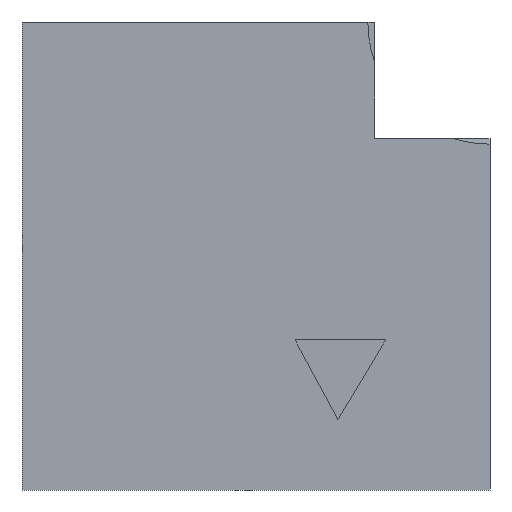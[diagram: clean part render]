
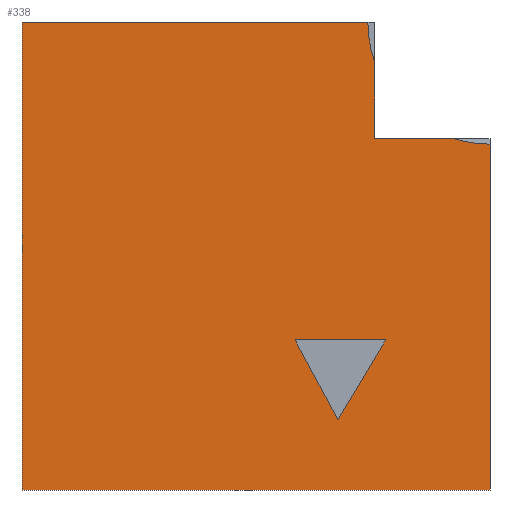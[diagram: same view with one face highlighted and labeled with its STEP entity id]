
A CAD part, front view. The second image highlights one B-rep face of the part: STEP entity #338.
In plain terms, the highlighted planar face has unit normal (0, -1, 0).
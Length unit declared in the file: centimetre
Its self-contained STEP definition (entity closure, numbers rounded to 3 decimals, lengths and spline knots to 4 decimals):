
#27 = ORIENTED_EDGE ( 'NONE', *, *, #60, .F. ) ;
#31 = ORIENTED_EDGE ( 'NONE', *, *, #482, .F. ) ;
#47 = EDGE_LOOP ( 'NONE', ( #27, #557, #299, #350, #264, #817, #506, #311 ) ) ;
#51 = CARTESIAN_POINT ( 'NONE',  ( 675.0934, 0., 150.1069 ) ) ;
#60 = EDGE_CURVE ( 'NONE', #1015, #91, #367, .T. ) ;
#74 = DIRECTION ( 'NONE',  ( 0., 0., -1. ) ) ;
#91 = VERTEX_POINT ( 'NONE', #1079 ) ;
#145 = DIRECTION ( 'NONE',  ( 1., 0., 0. ) ) ;
#161 = LINE ( 'NONE', #165, #457 ) ;
#165 = CARTESIAN_POINT ( 'NONE',  ( 583.5414, 0., 320.5909 ) ) ;
#170 = LINE ( 'NONE', #440, #493 ) ;
#184 = CARTESIAN_POINT ( 'NONE',  ( 753.8145, 0., 751.0625 ) ) ;
#197 = VERTEX_POINT ( 'NONE', #965 ) ;
#206 = DIRECTION ( 'NONE',  ( 0.513, 0., 0.858 ) ) ;
#216 = VERTEX_POINT ( 'NONE', #1039 ) ;
#222 = CARTESIAN_POINT ( 'NONE',  ( 0., 0., 0. ) ) ;
#231 = DIRECTION ( 'NONE',  ( 0., 0., -1. ) ) ;
#232 = CARTESIAN_POINT ( 'NONE',  ( 0., 0., 1000. ) ) ;
#240 = CARTESIAN_POINT ( 'NONE',  ( 675.0934, 0., 150.1069 ) ) ;
#248 = AXIS2_PLACEMENT_3D ( 'NONE', #427, #522, #335 ) ;
#264 = ORIENTED_EDGE ( 'NONE', *, *, #780, .T. ) ;
#269 = VECTOR ( 'NONE', #145, 100. ) ;
#283 = EDGE_CURVE ( 'NONE', #197, #1015, #701, .T. ) ;
#298 = VERTEX_POINT ( 'NONE', #451 ) ;
#299 = ORIENTED_EDGE ( 'NONE', *, *, #389, .F. ) ;
#311 = ORIENTED_EDGE ( 'NONE', *, *, #463, .F. ) ;
#313 = CARTESIAN_POINT ( 'NONE',  ( 776.9608, 0., 320.5909 ) ) ;
#325 = VECTOR ( 'NONE', #630, 100. ) ;
#328 = LINE ( 'NONE', #768, #657 ) ;
#332 = VERTEX_POINT ( 'NONE', #765 ) ;
#335 = DIRECTION ( 'NONE',  ( 0., 0., -1. ) ) ;
#338 = ADVANCED_FACE ( 'NONE', ( #432, #947 ), #934, .F. ) ;
#340 = EDGE_CURVE ( 'NONE', #514, #298, #170, .T. ) ;
#343 = VECTOR ( 'NONE', #537, 100. ) ;
#346 = LINE ( 'NONE', #944, #720 ) ;
#350 = ORIENTED_EDGE ( 'NONE', *, *, #579, .F. ) ;
#355 = VERTEX_POINT ( 'NONE', #240 ) ;
#367 = LINE ( 'NONE', #1045, #343 ) ;
#375 = VECTOR ( 'NONE', #997, 100. ) ;
#389 = EDGE_CURVE ( 'NONE', #416, #197, #794, .T. ) ;
#390 = LINE ( 'NONE', #734, #375 ) ;
#391 = EDGE_CURVE ( 'NONE', #332, #655, #346, .T. ) ;
#409 = LINE ( 'NONE', #222, #269 ) ;
#412 = DIRECTION ( 'NONE',  ( 0.473, 0., -0.881 ) ) ;
#416 = VERTEX_POINT ( 'NONE', #435 ) ;
#427 = CARTESIAN_POINT ( 'NONE',  ( 1000., 0., 1000. ) ) ;
#432 = FACE_BOUND ( 'NONE', #988, .T. ) ;
#435 = CARTESIAN_POINT ( 'NONE',  ( 738.9894, 0., 1000. ) ) ;
#440 = CARTESIAN_POINT ( 'NONE',  ( 776.9608, 0., 320.5909 ) ) ;
#450 = CARTESIAN_POINT ( 'NONE',  ( 1000., 0., 0. ) ) ;
#451 = CARTESIAN_POINT ( 'NONE',  ( 583.5414, 0., 320.5909 ) ) ;
#457 = VECTOR ( 'NONE', #412, 100. ) ;
#463 = EDGE_CURVE ( 'NONE', #91, #332, #881, .T. ) ;
#482 = EDGE_CURVE ( 'NONE', #355, #514, #757, .T. ) ;
#493 = VECTOR ( 'NONE', #862, 100. ) ;
#506 = ORIENTED_EDGE ( 'NONE', *, *, #391, .F. ) ;
#514 = VERTEX_POINT ( 'NONE', #313 ) ;
#522 = DIRECTION ( 'NONE',  ( 0., -1., 0. ) ) ;
#533 = VERTEX_POINT ( 'NONE', #232 ) ;
#537 = DIRECTION ( 'NONE',  ( 1., 0., 0. ) ) ;
#557 = ORIENTED_EDGE ( 'NONE', *, *, #283, .F. ) ;
#579 = EDGE_CURVE ( 'NONE', #533, #416, #390, .T. ) ;
#607 = ORIENTED_EDGE ( 'NONE', *, *, #806, .F. ) ;
#630 = DIRECTION ( 'NONE',  ( 0., 0., -1. ) ) ;
#655 = VERTEX_POINT ( 'NONE', #450 ) ;
#657 = VECTOR ( 'NONE', #231, 100. ) ;
#678 = DIRECTION ( 'NONE',  ( 0., 0., -1. ) ) ;
#701 = LINE ( 'NONE', #184, #325 ) ;
#720 = VECTOR ( 'NONE', #74, 100. ) ;
#734 = CARTESIAN_POINT ( 'NONE',  ( 0., 0., 1000. ) ) ;
#757 = LINE ( 'NONE', #51, #1115 ) ;
#765 = CARTESIAN_POINT ( 'NONE',  ( 1000., 0., 738.9894 ) ) ;
#768 = CARTESIAN_POINT ( 'NONE',  ( 0., 0., 1000. ) ) ;
#780 = EDGE_CURVE ( 'NONE', #533, #216, #328, .T. ) ;
#794 = CIRCLE ( 'NONE', #248, 261.0106 ) ;
#806 = EDGE_CURVE ( 'NONE', #298, #355, #161, .T. ) ;
#817 = ORIENTED_EDGE ( 'NONE', *, *, #1105, .T. ) ;
#834 = DIRECTION ( 'NONE',  ( 0., -1., 0. ) ) ;
#858 = CARTESIAN_POINT ( 'NONE',  ( 0., 0., 1000. ) ) ;
#862 = DIRECTION ( 'NONE',  ( -1., 0., 0. ) ) ;
#881 = CIRCLE ( 'NONE', #1022, 261.0106 ) ;
#934 = PLANE ( 'NONE',  #982 ) ;
#938 = DIRECTION ( 'NONE',  ( 0., 0., 1. ) ) ;
#944 = CARTESIAN_POINT ( 'NONE',  ( 1000., 0., 1000. ) ) ;
#947 = FACE_OUTER_BOUND ( 'NONE', #47, .T. ) ;
#965 = CARTESIAN_POINT ( 'NONE',  ( 753.8145, 0., 913.2866 ) ) ;
#982 = AXIS2_PLACEMENT_3D ( 'NONE', #858, #1013, #938 ) ;
#988 = EDGE_LOOP ( 'NONE', ( #607, #1088, #31 ) ) ;
#997 = DIRECTION ( 'NONE',  ( 1., 0., 0. ) ) ;
#1013 = DIRECTION ( 'NONE',  ( 0., 1., 0. ) ) ;
#1015 = VERTEX_POINT ( 'NONE', #1106 ) ;
#1022 = AXIS2_PLACEMENT_3D ( 'NONE', #1073, #834, #678 ) ;
#1039 = CARTESIAN_POINT ( 'NONE',  ( 0., 0., 0. ) ) ;
#1045 = CARTESIAN_POINT ( 'NONE',  ( 753.8145, 0., 751.0625 ) ) ;
#1073 = CARTESIAN_POINT ( 'NONE',  ( 1000., 0., 1000. ) ) ;
#1079 = CARTESIAN_POINT ( 'NONE',  ( 921.5357, 0., 751.0625 ) ) ;
#1088 = ORIENTED_EDGE ( 'NONE', *, *, #340, .F. ) ;
#1105 = EDGE_CURVE ( 'NONE', #216, #655, #409, .T. ) ;
#1106 = CARTESIAN_POINT ( 'NONE',  ( 753.8145, 0., 751.0625 ) ) ;
#1115 = VECTOR ( 'NONE', #206, 100. ) ;
